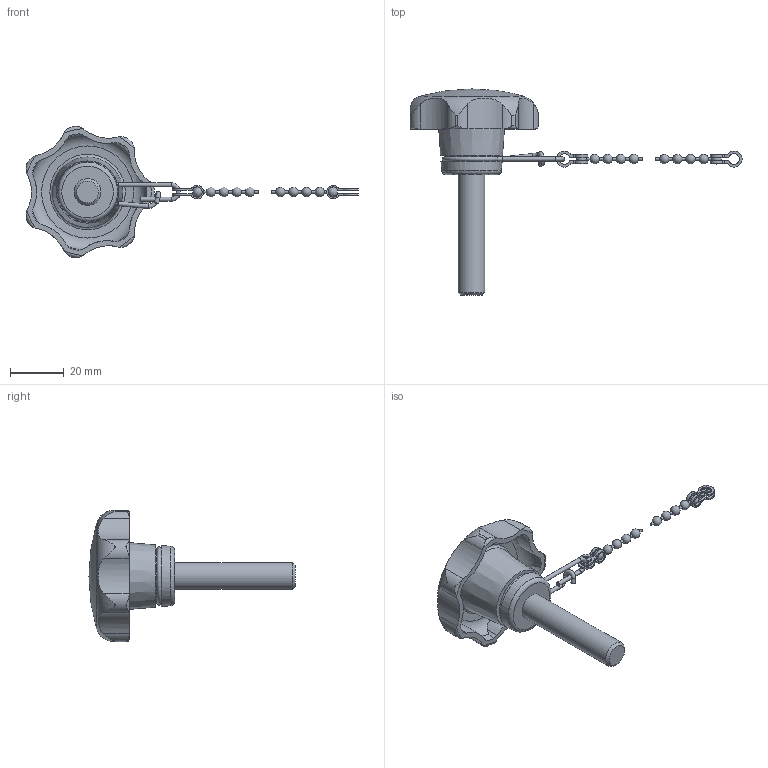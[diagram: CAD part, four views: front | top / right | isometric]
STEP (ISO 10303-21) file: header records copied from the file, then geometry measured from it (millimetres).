
FILE_DESCRIPTION( ( 'STEP AP203' ), '1' );
FILE_NAME( 'C:/Temp/Ganter_Step_05_03_2020/data/2_2/gn_6336_13/gn_6336_13_2/Star knob GN 6336.13-50-M10-45-K.stp', '2020-03-05T12:12:32', ( 'License CC BY-ND 4.0' ), ( 'CADENAS' ), ' ', 'PARTsolutions', ' ' );
FILE_SCHEMA( ( 'CONFIG_CONTROL_DESIGN' ) );
Length unit declared in the file: millimetre
Products named in the file (3): Star knob GN 6336.13-50-M10-45-K; _Star knob GN 6336.13-50-M10-45-K 6; _Star knob GN 111.5-200-14 k2
Assembly tree (2 placements, depth 2):
  Star knob GN 6336.13-50-M10-45-K
    _Star knob GN 6336.13-50-M10-45-K 6
    _Star knob GN 111.5-200-14 k2
Bounding box: 124.03 x 77 x 48.99 mm (x, y, z)
Volume: 26430.1 mm3; surface area: 10570.3 mm2
Topology: 2 solids, 2 shells, 163 faces, 466 edges, 300 vertices
Faces by surface type: cylinder 95, plane 28, torus 18, sphere 11, cone 11
Full cylindrical faces by diameter (mm): 0.9 x10, 1.6 x6, 10 x1, 18.5 x1
Entity records: 5930 total; most frequent: CARTESIAN_POINT 1831, DIRECTION 852, ORIENTED_EDGE 802, EDGE_CURVE 401, AXIS2_PLACEMENT_3D 366, VERTEX_POINT 287, EDGE_LOOP 213, CIRCLE 200
